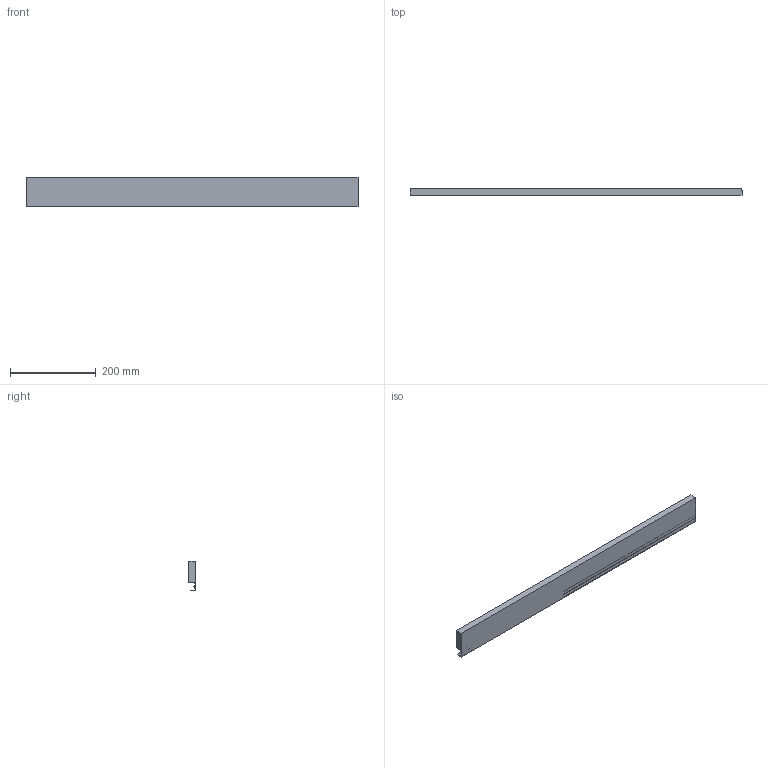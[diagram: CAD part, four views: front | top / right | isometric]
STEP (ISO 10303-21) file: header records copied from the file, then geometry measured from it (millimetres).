
FILE_DESCRIPTION (( 'STEP AP214' ), '1' );
FILE_NAME ('Innenschub-Blendenprofil_KAB900_S18.step', '2010-09-23T12:27:02', ( 'grass' ), ( '' ), 'SwSTEP 2.0', 'SolidWorks 2010', '' );
FILE_SCHEMA (( 'AUTOMOTIVE_DESIGN' ));
Length unit declared in the file: millimetre
Products named in the file (1): Innenschub-Blendenprofil_KAB900_S18
Bounding box: 773 x 15.9 x 67.6 mm (x, y, z)
Volume: 640947.3 mm3; surface area: 153355.6 mm2
Topology: 1 solids, 1 shells, 17 faces, 42 edges, 28 vertices
Faces by surface type: plane 15, cylinder 2
Entity records: 534 total; most frequent: CARTESIAN_POINT 88, ORIENTED_EDGE 84, DIRECTION 82, EDGE_CURVE 42, LINE 38, VECTOR 38, VERTEX_POINT 28, AXIS2_PLACEMENT_3D 22
